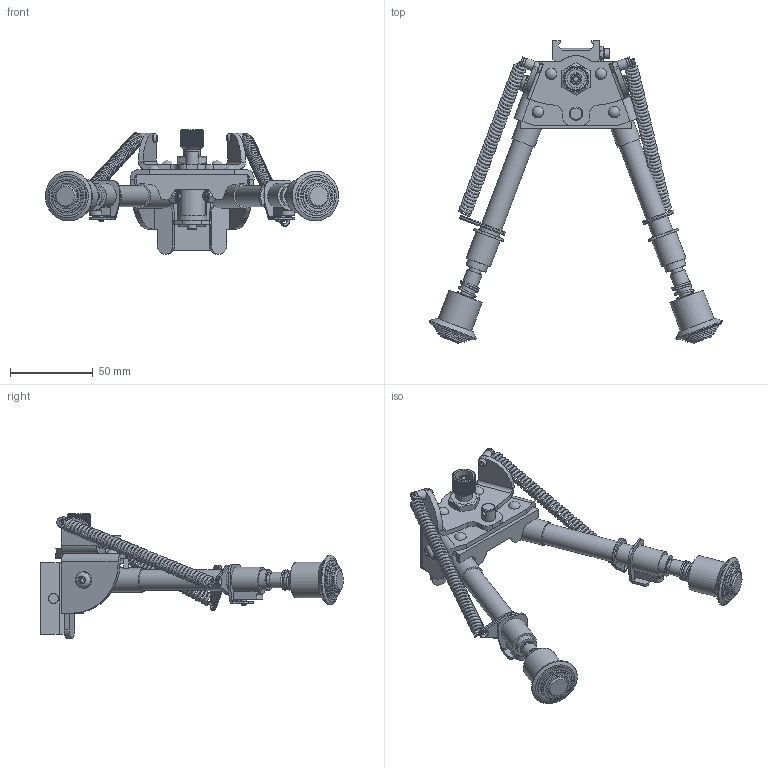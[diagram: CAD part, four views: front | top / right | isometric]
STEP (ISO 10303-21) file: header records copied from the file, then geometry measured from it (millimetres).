
FILE_DESCRIPTION( ( 'Unknown' ), '1' );
FILE_NAME( 'C:/Users/rakowski_b/Desktop/f16/ak/broń/sztucer/rifle-stock-thumbhole-1.snapshot.2/dwojnog/dwojnog ris.stp', 'Unknown', ( 'Unknown' ), ( 'Unknown' ), 'PSStep 17.0.49', 'Unknown', ' ' );
FILE_SCHEMA( ( 'AUTOMOTIVE_DESIGN { 1 0 10303 214 1 1 1 1 }' ) );
Length unit declared in the file: millimetre
Products named in the file (34): Spr_X2_0119017C_X0_yna naci_X2_0105_X0_gowa; Spr_X2_0119017C_X0_yna naci_X2_0105_X0_gowa1; Spr_X2_0119017C_X0_yna naciskowa; Spr_X2_0119017C_X0_yna naciskowa1; Assem1; dwojnog baza; dwojnog nozka 2; dwojnog nozka; dwojnog stopka; ISO 7380 M5 x 25; ISO 7089 5 - 140 HV; ISO 4032 M5; dwojnog zatrzask; dwojnog przycisk; dwojnog baza 2; ISO_R 1051 - 3 x 12 x 6,2; dwojnog baza 3; dwojnog ucho 1; DIN 439-2 - zast_X2_0105_X0_piona przez DIN EN 24035_28675 M4; dwojnog podk_X2_0142_X0_adka; DIN 439-2 - zast_X2_0105_X0_piona przez DIN EN 24035_28675 M10; dwojnog tuleja; dwojnog podk_X2_0142_X0_adka 2; dwojnog sruba; dwojnog sruba 2; DIN EN ISO 7040 M4; dwojnog przetyczka; dwojnog mont spr; dwojnog mont spr 2; ISO 7380 M3 x 8; ISO 1207 M3 x 4; mont ris 2; mont ris; luneta mont kolek
Assembly tree (51 placements, depth 3):
  Assem1
    dwojnog baza
    dwojnog nozka 2  x2
    dwojnog nozka  x2
    dwojnog stopka  x2
    ISO 7380 M5 x 25  x2
    ISO 7089 5 - 140 HV  x2
    ISO 4032 M5  x2
    dwojnog zatrzask  x2
    dwojnog przycisk  x2
    dwojnog baza 2
    ISO_R 1051 - 3 x 12 x 6,2  x4
    dwojnog baza 3
    dwojnog ucho 1
    DIN 439-2 - zast_X2_0105_X0_piona przez DIN EN 24035_28675 M4
    dwojnog podk_X2_0142_X0_adka
    DIN 439-2 - zast_X2_0105_X0_piona przez DIN EN 24035_28675 M10
    dwojnog tuleja
    dwojnog podk_X2_0142_X0_adka 2
    dwojnog sruba
    dwojnog sruba 2
    DIN EN ISO 7040 M4  x2
    dwojnog przetyczka
    dwojnog mont spr  x2
    dwojnog mont spr 2  x2
    ISO 7380 M3 x 8  x2
    ISO 1207 M3 x 4  x2
    mont ris 2
    mont ris
    luneta mont kolek
    Spr_X2_0119017C_X0_yna naci_X2_0105_X0_gowa  x2
      Spr_X2_0119017C_X0_yna naci_X2_0105_X0_gowa1
    Spr_X2_0119017C_X0_yna naciskowa  x2
      Spr_X2_0119017C_X0_yna naciskowa1
Bounding box: 176.77 x 182.29 x 74.9 mm (x, y, z)
Surface area: 86999.8 mm2 (no closed solid volume)
Topology: 0 solids, 1120 shells, 1120 faces, 5371 edges, 5127 vertices
Faces by surface type: plane 672, cylinder 314, cone 61, torus 27, bspline 26, sphere 12, revolution 4, extrusion 4
Full cylindrical faces by diameter (mm): 2.693 x2, 3 x15, 3.242 x3, 4 x18, 4.134 x2, 5 x10, 5.3 x2, 5.6 x2, 5.7 x2, 5.88 x2, 6 x6, 6.1 x3, 7.2 x8, 8 x1, 8.376 x1, 9.4 x14, 9.5 x2, 10 x8, 11 x3, 12.7 x8, 13 x2, 13.5 x2, 14.6 x2, 15.5 x2, 16 x1, 18 x3, 18.5 x2, 20.5 x2, 21.5 x2, 23.5 x2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
Entity records: 59421 total; most frequent: CARTESIAN_POINT 17685, DIRECTION 7496, VERTEX_POINT 4369, ORIENTED_EDGE 4366, EDGE_CURVE 4366, VECTOR 2566, LINE 2564, AXIS2_PLACEMENT_3D 2464
